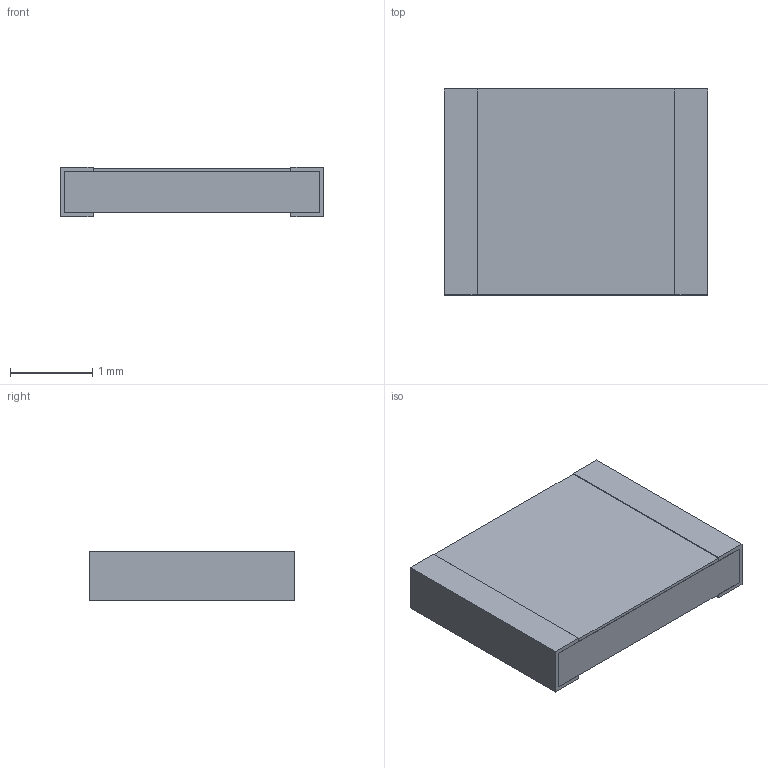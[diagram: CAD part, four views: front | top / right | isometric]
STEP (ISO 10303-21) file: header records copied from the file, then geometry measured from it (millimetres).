
FILE_DESCRIPTION(('STEP AP203'), '1');
FILE_NAME('Ð1-153 1210', '', ('UNSPECIFIED'), ('UNSPECIFIED'), 'ASCON STEP Converter 1.6', 'ASCON Math Kernel', '');
FILE_SCHEMA(('CONFIG_CONTROL_DESIGN'));
Length unit declared in the file: millimetre
Bounding box: 3.2 x 2.5 x 0.6 mm (x, y, z)
Volume: 4.4 mm3; surface area: 47.3 mm2
Topology: 4 solids, 4 shells, 32 faces, 72 edges, 48 vertices
Faces by surface type: plane 32
Entity records: 1194 total; most frequent: CARTESIAN_POINT 153, ORIENTED_EDGE 144, DIRECTION 138, EDGE_CURVE 72, LINE 72, VECTOR 72, VERTEX_POINT 48, COLOUR_RGB 36
